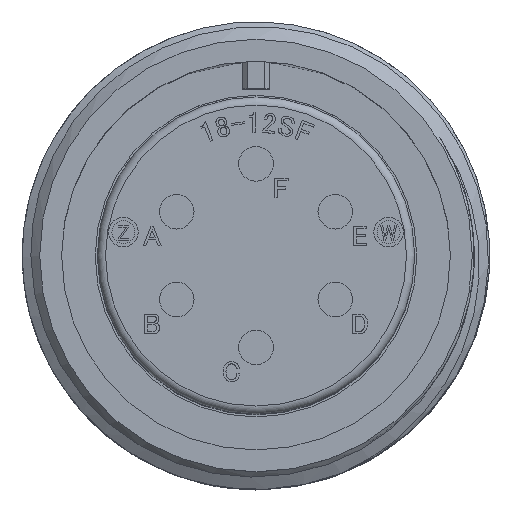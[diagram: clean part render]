
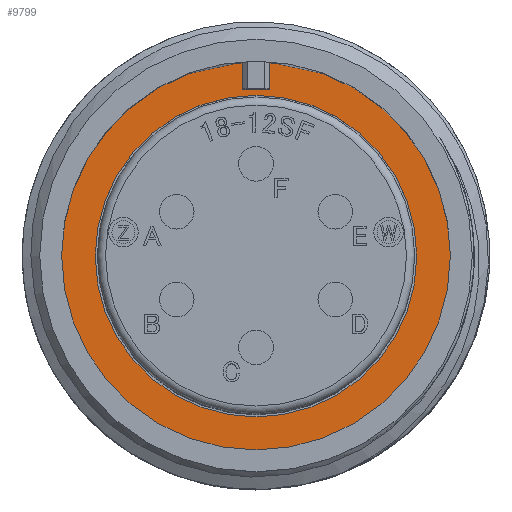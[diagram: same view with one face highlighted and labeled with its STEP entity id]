
A CAD part, top view. The second image highlights one B-rep face of the part: STEP entity #9799.
In plain terms, the highlighted planar face has unit normal (0, 0, 1).
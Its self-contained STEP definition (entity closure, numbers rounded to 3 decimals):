
#859 = CARTESIAN_POINT ( 'NONE',  ( 0., 0., -19.18 ) ) ;
#1945 = CARTESIAN_POINT ( 'NONE',  ( 0., 9.795, -19.18 ) ) ;
#3021 = DIRECTION ( 'NONE',  ( 0., 0., -1. ) ) ;
#6760 = VERTEX_POINT ( 'NONE', #19532 ) ;
#8484 = CARTESIAN_POINT ( 'NONE',  ( 0., 0., -19.18 ) ) ;
#9799 = ADVANCED_FACE ( 'NONE', ( #20715, #18148 ), #30162, .T. ) ;
#10250 = CARTESIAN_POINT ( 'NONE',  ( -11.84, 0., -19.18 ) ) ;
#12451 = AXIS2_PLACEMENT_3D ( 'NONE', #1945, #16034, #20756 ) ;
#14942 = DIRECTION ( 'NONE',  ( -1., 0., 0. ) ) ;
#16034 = DIRECTION ( 'NONE',  ( 0., 0., 1. ) ) ;
#17865 = DIRECTION ( 'NONE',  ( 0., 0., -1. ) ) ;
#18148 = FACE_OUTER_BOUND ( 'NONE', #24298, .T. ) ;
#19532 = CARTESIAN_POINT ( 'NONE',  ( -9.795, 0., -19.18 ) ) ;
#20270 = EDGE_CURVE ( 'NONE', #23300, #23300, #28453, .T. ) ;
#20715 = FACE_BOUND ( 'NONE', #25277, .T. ) ;
#20756 = DIRECTION ( 'NONE',  ( 1., 0., 0. ) ) ;
#20935 = ORIENTED_EDGE ( 'NONE', *, *, #26562, .T. ) ;
#21103 = AXIS2_PLACEMENT_3D ( 'NONE', #859, #3021, #14942 ) ;
#22488 = DIRECTION ( 'NONE',  ( -1., 0., 0. ) ) ;
#22549 = AXIS2_PLACEMENT_3D ( 'NONE', #8484, #17865, #22488 ) ;
#22993 = ORIENTED_EDGE ( 'NONE', *, *, #20270, .F. ) ;
#23300 = VERTEX_POINT ( 'NONE', #10250 ) ;
#23459 = CIRCLE ( 'NONE', #22549, 9.795 ) ;
#24298 = EDGE_LOOP ( 'NONE', ( #22993 ) ) ;
#25277 = EDGE_LOOP ( 'NONE', ( #20935 ) ) ;
#26562 = EDGE_CURVE ( 'NONE', #6760, #6760, #23459, .T. ) ;
#28453 = CIRCLE ( 'NONE', #21103, 11.84 ) ;
#30162 = PLANE ( 'NONE',  #12451 ) ;
